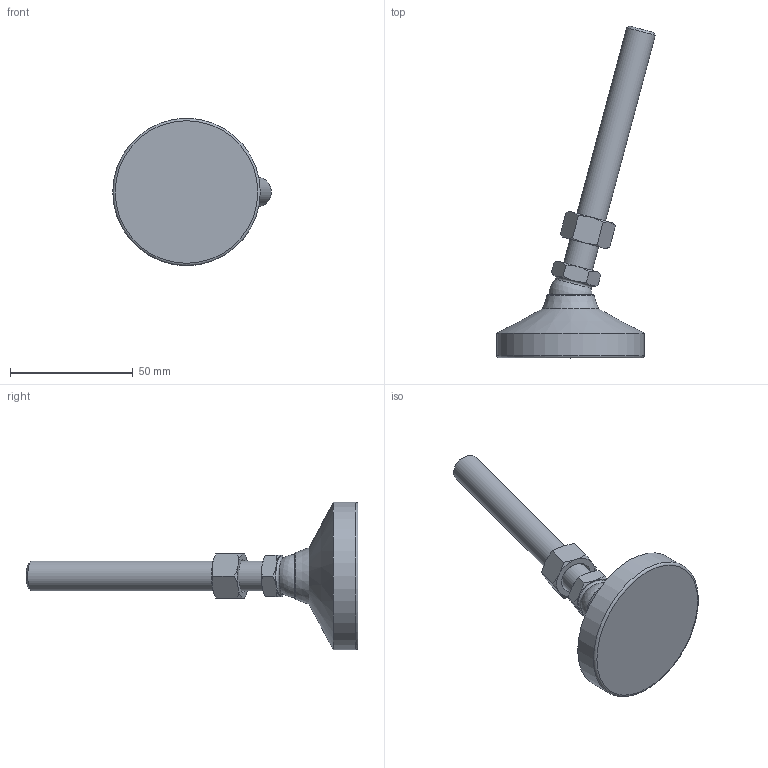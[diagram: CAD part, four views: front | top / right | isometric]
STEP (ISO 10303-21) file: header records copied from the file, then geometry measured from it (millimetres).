
FILE_DESCRIPTION( ( 'STEP AP214' ), ' ' );
FILE_NAME( 'O:/ganter_2015/teil_2/2_5/gn343_2/gn343_2_kre/Levelling foot with threaded stud GN 343.2-60-M12-100-KRE-(-15).stp', '2015-10-26T09:20:09', ( '' ), ( '' ), ' ', 'PARTsolutions', ' ' );
FILE_SCHEMA( ( 'AUTOMOTIVE_DESIGN { 1 0 10303 214 1 1 1 1 }' ) );
Length unit declared in the file: millimetre
Products named in the file (4): Levelling foot with threaded stud GN 343.2-60-M12-100-KRE-(-15); _Levelling foot with threaded stud GN 343.2-60-M12-100-KRE-(-15)_foot; _Levelling foot with threaded stud GN 343.2-60-M12-100-KRE-(-15)_screw; _Levelling foot with threaded stud GN 343.2-60-M12-100-KRE-(-15)_nut
Assembly tree (3 placements, depth 2):
  Levelling foot with threaded stud GN 343.2-60-M12-100-KRE-(-15)
    _Levelling foot with threaded stud GN 343.2-60-M12-100-KRE-(-15)_foot
    _Levelling foot with threaded stud GN 343.2-60-M12-100-KRE-(-15)_screw
    _Levelling foot with threaded stud GN 343.2-60-M12-100-KRE-(-15)_nut
Bounding box: 64.47 x 134.99 x 60 mm (x, y, z)
Volume: 60608.5 mm3; surface area: 14812.8 mm2
Topology: 3 solids, 3 shells, 56 faces, 117 edges, 68 vertices
Faces by surface type: cone 29, plane 19, torus 3, cylinder 3, sphere 2
Full cylindrical faces by diameter (mm): 10.106 x1, 12 x1, 60 x1
Entity records: 2066 total; most frequent: CARTESIAN_POINT 498, DIRECTION 212, ORIENTED_EDGE 200, AXIS2_PLACEMENT_3D 100, EDGE_CURVE 100, EDGE_LOOP 72, VERTEX_POINT 66, FACE_OUTER_BOUND 62
